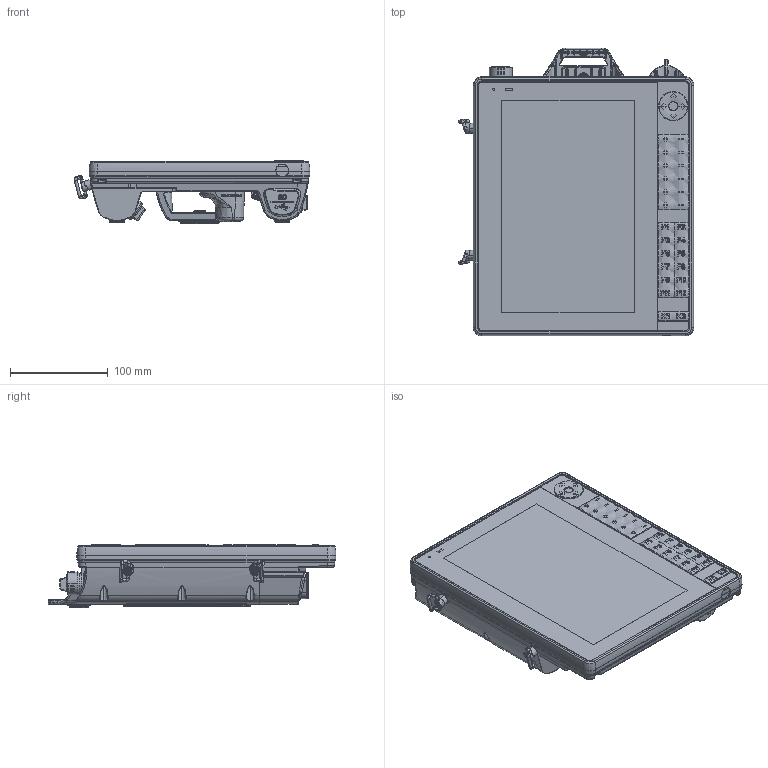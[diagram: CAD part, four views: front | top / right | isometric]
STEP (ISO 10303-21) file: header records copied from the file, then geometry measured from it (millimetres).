
FILE_DESCRIPTION (( 'STEP AP214' ), '1' );
FILE_NAME ('X10 Smart Wired.STEP', '2026-02-06T10:27:35', ( '' ), ( '' ), 'SwSTEP 2.0', 'SolidWorks 2025', '' );
FILE_SCHEMA (( 'AUTOMOTIVE_DESIGN' ));
Products named in the file (1): X10 Smart Wired
Bounding box: 241.64 x 295.08 x 64.62 mm (x, y, z)
Volume: 2210262.8 mm3; surface area: 233291.1 mm2
Topology: 2 solids, 41 shells, 6679 faces, 16616 edges, 10072 vertices
Faces by surface type: plane 2386, bspline 2054, cylinder 1208, torus 497, cone 455, sphere 79
Entity records: 261141 total; most frequent: CARTESIAN_POINT 120041, ORIENTED_EDGE 32928, DIRECTION 24563, EDGE_CURVE 16464, VERTEX_POINT 10069, AXIS2_PLACEMENT_3D 9008, EDGE_LOOP 7025, ADVANCED_FACE 6679
